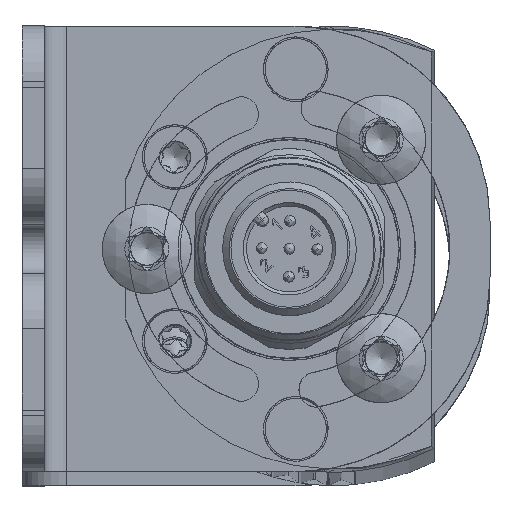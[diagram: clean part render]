
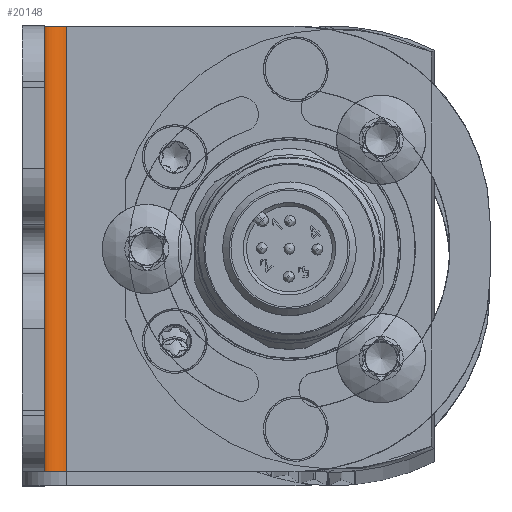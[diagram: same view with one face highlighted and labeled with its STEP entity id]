
A CAD part, top view. The second image highlights one B-rep face of the part: STEP entity #20148.
In plain terms, the highlighted cylindrical face has radius 2 mm (diameter 4 mm), a partial arc.
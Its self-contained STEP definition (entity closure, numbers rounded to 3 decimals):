
#2118=CIRCLE('',#22405,2.);
#2119=CIRCLE('',#22406,2.);
#2510=CYLINDRICAL_SURFACE('',#22404,2.);
#4593=FACE_OUTER_BOUND('',#5770,.T.);
#5770=EDGE_LOOP('',(#18393,#18394,#18395,#18396));
#6332=LINE('',#32926,#7459);
#6879=LINE('',#38322,#8006);
#7459=VECTOR('',#25004,10.);
#8006=VECTOR('',#27911,10.);
#8954=VERTEX_POINT('',#32923);
#8955=VERTEX_POINT('',#32925);
#9851=VERTEX_POINT('',#38320);
#9852=VERTEX_POINT('',#38321);
#11239=EDGE_CURVE('',#8954,#8955,#6332,.T.);
#12730=EDGE_CURVE('',#9851,#9852,#6879,.T.);
#12731=EDGE_CURVE('',#9851,#8955,#2118,.T.);
#12732=EDGE_CURVE('',#9852,#8954,#2119,.T.);
#18393=ORIENTED_EDGE('',*,*,#12730,.F.);
#18394=ORIENTED_EDGE('',*,*,#12731,.T.);
#18395=ORIENTED_EDGE('',*,*,#11239,.F.);
#18396=ORIENTED_EDGE('',*,*,#12732,.F.);
#20148=ADVANCED_FACE('',(#4593),#2510,.F.);
#22404=AXIS2_PLACEMENT_3D('',#38319,#27909,#27910);
#22405=AXIS2_PLACEMENT_3D('',#38323,#27912,#27913);
#22406=AXIS2_PLACEMENT_3D('',#38324,#27914,#27915);
#25004=DIRECTION('',(0.,-1.,0.));
#27909=DIRECTION('center_axis',(0.,1.,0.));
#27910=DIRECTION('ref_axis',(0.,0.,
-1.));
#27911=DIRECTION('',(0.,1.,0.));
#27912=DIRECTION('center_axis',(0.,-1.,0.));
#27913=DIRECTION('ref_axis',(-1.,0.,0.));
#27914=DIRECTION('center_axis',(0.,-1.,0.));
#27915=DIRECTION('ref_axis',(-1.,0.,0.));
#32923=CARTESIAN_POINT('',(-5.,8.398,517.552));
#32925=CARTESIAN_POINT('',(-5.,-31.602,517.552));
#32926=CARTESIAN_POINT('',(-5.,8.398,517.552));
#38319=CARTESIAN_POINT('Origin',(-5.,-11.602,519.552));
#38320=CARTESIAN_POINT('',(-7.,-31.602,519.552));
#38321=CARTESIAN_POINT('',(-7.,8.398,519.552));
#38322=CARTESIAN_POINT('',(-7.,-11.602,519.552));
#38323=CARTESIAN_POINT('Origin',(-5.,-31.602,519.552));
#38324=CARTESIAN_POINT('Origin',(-5.,8.398,519.552));
